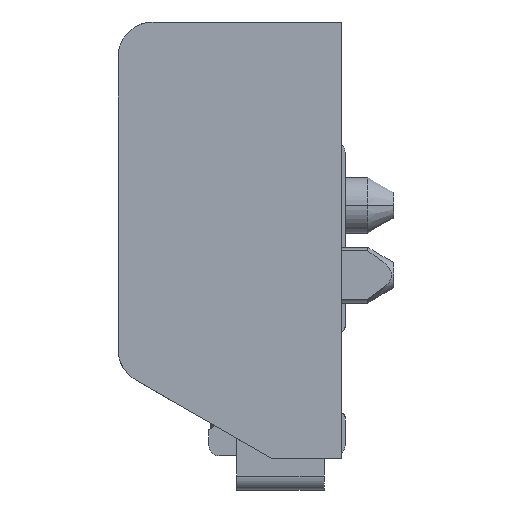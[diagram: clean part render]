
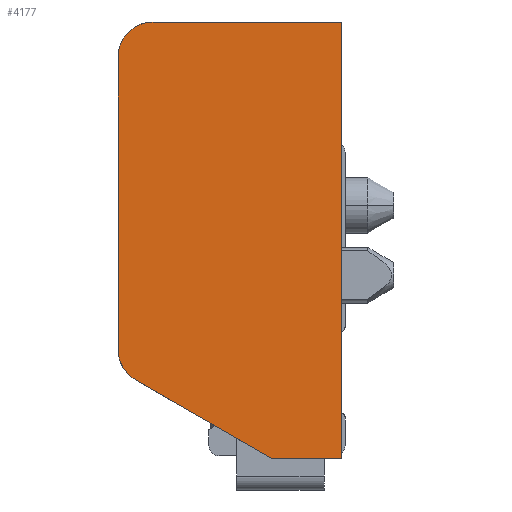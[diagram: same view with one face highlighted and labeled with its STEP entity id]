
A CAD part, left-side view. The second image highlights one B-rep face of the part: STEP entity #4177.
In plain terms, the highlighted planar face has unit normal (-1, 0, 0).
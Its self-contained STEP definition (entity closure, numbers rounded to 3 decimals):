
#868=CARTESIAN_POINT('',(-13.6,3.65,-1.));
#869=DIRECTION('',(-1.,0.,0.));
#870=DIRECTION('',(0.,0.,1.));
#871=AXIS2_PLACEMENT_3D('',#868,#869,#870);
#873=DIRECTION('',(0.,-1.,0.));
#874=VECTOR('',#873,5.4);
#875=CARTESIAN_POINT('',(-13.6,3.65,0.));
#876=LINE('',#875,#874);
#877=DIRECTION('',(0.,0.,-1.));
#878=VECTOR('',#877,12.5);
#879=CARTESIAN_POINT('',(-13.6,-1.75,0.));
#880=LINE('',#879,#878);
#881=DIRECTION('',(0.,1.,0.));
#882=VECTOR('',#881,2.);
#883=CARTESIAN_POINT('',(-13.6,-1.75,-12.5));
#884=LINE('',#883,#882);
#885=DIRECTION('',(0.,0.866,0.5));
#886=VECTOR('',#885,4.503);
#887=CARTESIAN_POINT('',(-13.6,0.25,-12.5));
#888=LINE('',#887,#886);
#889=CARTESIAN_POINT('',(-13.6,3.65,-9.382));
#890=DIRECTION('',(-1.,0.,0.));
#891=DIRECTION('',(0.,1.,0.));
#892=AXIS2_PLACEMENT_3D('',#889,#890,#891);
#894=DIRECTION('',(0.,0.,1.));
#895=VECTOR('',#894,8.382);
#896=CARTESIAN_POINT('',(-13.6,4.65,-9.382));
#897=LINE('',#896,#895);
#2528=CARTESIAN_POINT('',(-13.6,-1.75,0.));
#2529=CARTESIAN_POINT('',(-13.6,-1.75,-12.5));
#2530=VERTEX_POINT('',#2528);
#2531=VERTEX_POINT('',#2529);
#2532=CARTESIAN_POINT('',(-13.6,0.25,-12.5));
#2533=VERTEX_POINT('',#2532);
#2560=CARTESIAN_POINT('',(-13.6,3.65,0.));
#2561=CARTESIAN_POINT('',(-13.6,4.65,-1.));
#2562=VERTEX_POINT('',#2560);
#2563=VERTEX_POINT('',#2561);
#2581=CARTESIAN_POINT('',(-13.6,4.65,-9.382));
#2582=VERTEX_POINT('',#2581);
#2583=CARTESIAN_POINT('',(-13.6,4.15,-10.248));
#2584=VERTEX_POINT('',#2583);
#4160=CARTESIAN_POINT('',(-13.6,0.,0.));
#4161=DIRECTION('',(1.,0.,0.));
#4162=DIRECTION('',(0.,0.,-1.));
#4163=AXIS2_PLACEMENT_3D('',#4160,#4161,#4162);
#4164=PLANE('',#4163);
#4165=ORIENTED_EDGE('',*,*,#4148,.F.);
#4167=ORIENTED_EDGE('',*,*,#4166,.T.);
#4168=ORIENTED_EDGE('',*,*,#4111,.T.);
#4169=ORIENTED_EDGE('',*,*,#3785,.T.);
#4170=ORIENTED_EDGE('',*,*,#3889,.T.);
#4172=ORIENTED_EDGE('',*,*,#4171,.F.);
#4174=ORIENTED_EDGE('',*,*,#4173,.T.);
#4175=EDGE_LOOP('',(#4165,#4167,#4168,#4169,#4170,#4172,#4174));
#4176=FACE_OUTER_BOUND('',#4175,.F.);
#872=CIRCLE('',#871,1.);
#893=CIRCLE('',#892,1.);
#3785=EDGE_CURVE('',#2531,#2533,#884,.T.);
#3889=EDGE_CURVE('',#2533,#2584,#888,.T.);
#4111=EDGE_CURVE('',#2530,#2531,#880,.T.);
#4148=EDGE_CURVE('',#2562,#2563,#872,.T.);
#4166=EDGE_CURVE('',#2562,#2530,#876,.T.);
#4171=EDGE_CURVE('',#2582,#2584,#893,.T.);
#4173=EDGE_CURVE('',#2582,#2563,#897,.T.);
#4177=ADVANCED_FACE('',(#4176),#4164,.F.);
